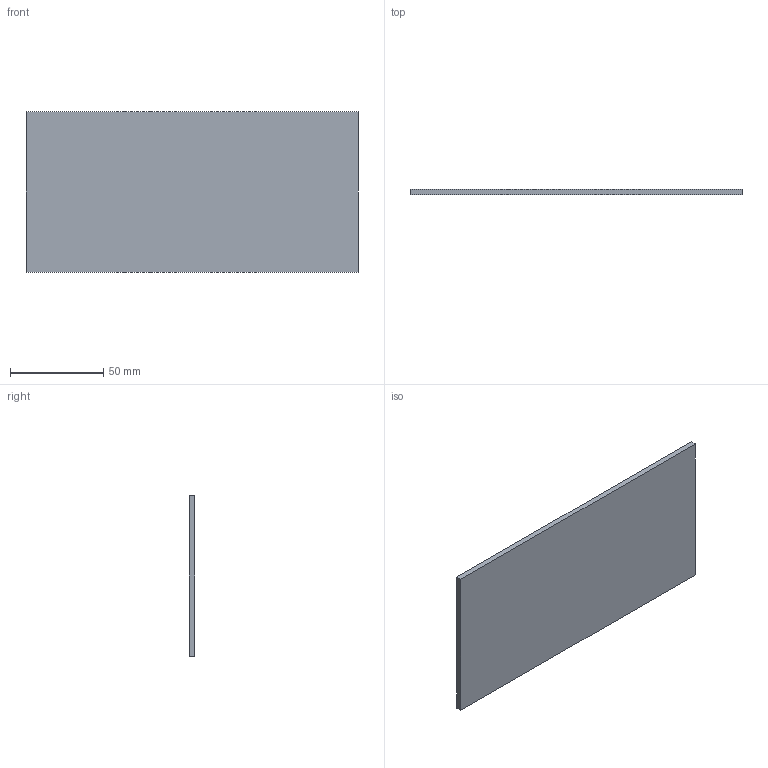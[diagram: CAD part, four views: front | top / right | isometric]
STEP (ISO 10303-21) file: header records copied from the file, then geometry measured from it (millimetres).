
FILE_DESCRIPTION(('Open CASCADE Model'),'2;1');
FILE_NAME('Open CASCADE Shape Model','2026-10-06T19:56:08',('Author'),( 'Open CASCADE'),'Open CASCADE STEP processor 7.9','Open CASCADE 7.9' ,'Unknown');
FILE_SCHEMA(('AUTOMOTIVE_DESIGN { 1 0 10303 214 1 1 1 1 }'));
Length unit declared in the file: millimetre
Products named in the file (1): Open CASCADE STEP translator 7.9 6
Bounding box: 178 x 3 x 86 mm (x, y, z)
Volume: 45924 mm3; surface area: 32200 mm2
Topology: 1 solids, 1 shells, 6 faces, 12 edges, 8 vertices
Faces by surface type: plane 6
Entity records: 322 total; most frequent: CARTESIAN_POINT 51, DIRECTION 50, LINE 36, VECTOR 36, ORIENTED_EDGE 24, PCURVE 24, DEFINITIONAL_REPRESENTATION 24, EDGE_CURVE 12
